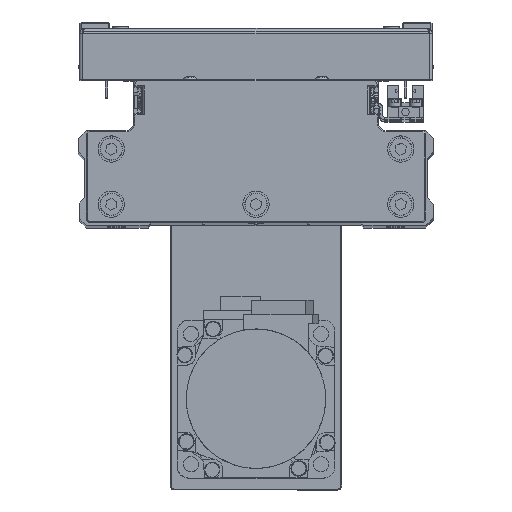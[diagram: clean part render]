
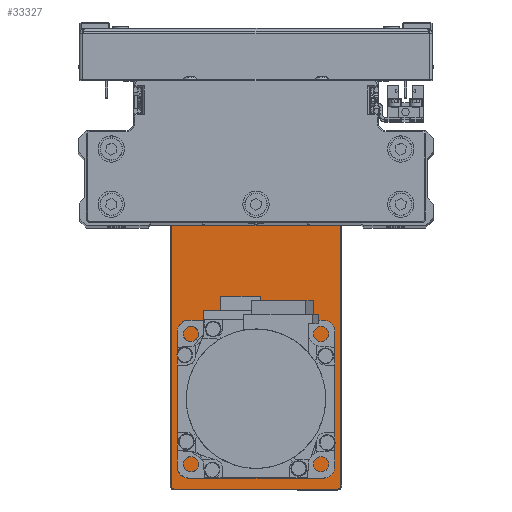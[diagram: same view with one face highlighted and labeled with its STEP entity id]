
A CAD part, top view. The second image highlights one B-rep face of the part: STEP entity #33327.
In plain terms, the highlighted planar face has unit normal (0, 0, 1) as drawn and (0, 1, 0) by its records, which use the part's own axes.
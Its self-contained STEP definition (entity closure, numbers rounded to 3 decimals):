
#68 = LINE ( 'NONE', #13600, #17978 ) ;
#640 = EDGE_LOOP ( 'NONE', ( #26068, #18348 ) ) ;
#845 = EDGE_CURVE ( 'NONE', #32373, #39352, #42726, .T. ) ;
#1096 = CARTESIAN_POINT ( 'NONE',  ( -84.7, 6., 31. ) ) ;
#1288 = DIRECTION ( 'NONE',  ( 0., 0., -1. ) ) ;
#1783 = EDGE_CURVE ( 'NONE', #27980, #29511, #11864, .T. ) ;
#2672 = DIRECTION ( 'NONE',  ( 0., 1., 0. ) ) ;
#2726 = ORIENTED_EDGE ( 'NONE', *, *, #41352, .T. ) ;
#2916 = AXIS2_PLACEMENT_3D ( 'NONE', #7598, #21146, #34689 ) ;
#3352 = AXIS2_PLACEMENT_3D ( 'NONE', #33114, #2672, #16196 ) ;
#3523 = DIRECTION ( 'NONE',  ( 0., 0., 1. ) ) ;
#3753 = DIRECTION ( 'NONE',  ( -1., 0., 0. ) ) ;
#3975 = CIRCLE ( 'NONE', #9646, 15. ) ;
#4384 = DIRECTION ( 'NONE',  ( 0., 1., 0. ) ) ;
#4413 = DIRECTION ( 'NONE',  ( 0., 1., 0. ) ) ;
#4461 = CARTESIAN_POINT ( 'NONE',  ( 61.051, 6., 23.492 ) ) ;
#4641 = ORIENTED_EDGE ( 'NONE', *, *, #27818, .T. ) ;
#5366 = CIRCLE ( 'NONE', #30205, 1.2 ) ;
#5469 = DIRECTION ( 'NONE',  ( 0., 0., -1. ) ) ;
#5862 = DIRECTION ( 'NONE',  ( 0., 0., -1. ) ) ;
#6671 = ORIENTED_EDGE ( 'NONE', *, *, #34083, .F. ) ;
#7500 = AXIS2_PLACEMENT_3D ( 'NONE', #18164, #31730, #1288 ) ;
#7598 = CARTESIAN_POINT ( 'NONE',  ( 52.5, 6., 0. ) ) ;
#7675 = CARTESIAN_POINT ( 'NONE',  ( 84.7, 6., 0. ) ) ;
#8786 = PLANE ( 'NONE',  #16783 ) ;
#9503 = EDGE_LOOP ( 'NONE', ( #23971, #11650 ) ) ;
#9646 = AXIS2_PLACEMENT_3D ( 'NONE', #11849, #25396, #38945 ) ;
#10083 = EDGE_LOOP ( 'NONE', ( #27280, #30245, #11798, #2726, #37909, #35811, #36991, #34831 ) ) ;
#10346 = DIRECTION ( 'NONE',  ( 0., 1., 0. ) ) ;
#11159 = CARTESIAN_POINT ( 'NONE',  ( -83.5, 6., 32.2 ) ) ;
#11495 = EDGE_CURVE ( 'NONE', #18677, #28944, #33385, .T. ) ;
#11650 = ORIENTED_EDGE ( 'NONE', *, *, #32383, .F. ) ;
#11798 = ORIENTED_EDGE ( 'NONE', *, *, #25408, .T. ) ;
#11849 = CARTESIAN_POINT ( 'NONE',  ( -50.5, 6., 0. ) ) ;
#11864 = CIRCLE ( 'NONE', #36684, 1.525 ) ;
#11874 = AXIS2_PLACEMENT_3D ( 'NONE', #34859, #4413, #17965 ) ;
#11928 = DIRECTION ( 'NONE',  ( 0., 1., 0. ) ) ;
#12108 = FACE_BOUND ( 'NONE', #18203, .T. ) ;
#12272 = CARTESIAN_POINT ( 'NONE',  ( 0., 6., 32.2 ) ) ;
#12533 = DIRECTION ( 'NONE',  ( 0., 1., 0. ) ) ;
#13213 = CARTESIAN_POINT ( 'NONE',  ( 52.5, 6., 10.3 ) ) ;
#13600 = CARTESIAN_POINT ( 'NONE',  ( -84.7, 6., 0. ) ) ;
#13686 = AXIS2_PLACEMENT_3D ( 'NONE', #34827, #4384, #17930 ) ;
#14232 = AXIS2_PLACEMENT_3D ( 'NONE', #20426, #33972, #3523 ) ;
#14711 = VERTEX_POINT ( 'NONE', #30810 ) ;
#15333 = VERTEX_POINT ( 'NONE', #25995 ) ;
#15337 = VECTOR ( 'NONE', #25838, 1000. ) ;
#16056 = VERTEX_POINT ( 'NONE', #29005 ) ;
#16196 = DIRECTION ( 'NONE',  ( 0., 0., 1. ) ) ;
#16200 = CARTESIAN_POINT ( 'NONE',  ( 84.7, 6., 31. ) ) ;
#16280 = VERTEX_POINT ( 'NONE', #20762 ) ;
#16783 = AXIS2_PLACEMENT_3D ( 'NONE', #22353, #35904, #5469 ) ;
#17385 = AXIS2_PLACEMENT_3D ( 'NONE', #22747, #36294, #5862 ) ;
#17930 = DIRECTION ( 'NONE',  ( 0., 0., -1. ) ) ;
#17965 = DIRECTION ( 'NONE',  ( 0., 0., 1. ) ) ;
#17978 = VECTOR ( 'NONE', #27168, 1000. ) ;
#18008 = DIRECTION ( 'NONE',  ( 0., 1., 0. ) ) ;
#18164 = CARTESIAN_POINT ( 'NONE',  ( 52.5, 6., 0. ) ) ;
#18203 = EDGE_LOOP ( 'NONE', ( #21623, #4641 ) ) ;
#18348 = ORIENTED_EDGE ( 'NONE', *, *, #33851, .F. ) ;
#18677 = VERTEX_POINT ( 'NONE', #28553 ) ;
#18776 = EDGE_CURVE ( 'NONE', #22104, #42542, #36544, .T. ) ;
#18851 = AXIS2_PLACEMENT_3D ( 'NONE', #4461, #18008, #31591 ) ;
#18894 = CARTESIAN_POINT ( 'NONE',  ( 61.051, 6., 25.017 ) ) ;
#19892 = ORIENTED_EDGE ( 'NONE', *, *, #11495, .F. ) ;
#20426 = CARTESIAN_POINT ( 'NONE',  ( 75.992, 6., -8.551 ) ) ;
#20560 = EDGE_CURVE ( 'NONE', #29060, #15333, #26651, .T. ) ;
#20640 = LINE ( 'NONE', #34194, #43391 ) ;
#20651 = EDGE_CURVE ( 'NONE', #39352, #40461, #5366, .T. ) ;
#20661 = AXIS2_PLACEMENT_3D ( 'NONE', #42992, #12533, #26094 ) ;
#20762 = CARTESIAN_POINT ( 'NONE',  ( -83.5, 6., -32.2 ) ) ;
#21037 = CARTESIAN_POINT ( 'NONE',  ( 84.7, 6., -31. ) ) ;
#21146 = DIRECTION ( 'NONE',  ( 0., -1., 0. ) ) ;
#21222 = DIRECTION ( 'NONE',  ( 0., 0., -1. ) ) ;
#21623 = ORIENTED_EDGE ( 'NONE', *, *, #20560, .T. ) ;
#22077 = CIRCLE ( 'NONE', #2916, 10.3 ) ;
#22104 = VERTEX_POINT ( 'NONE', #21037 ) ;
#22353 = CARTESIAN_POINT ( 'NONE',  ( 0., 6., 0. ) ) ;
#22502 = CIRCLE ( 'NONE', #3352, 15. ) ;
#22616 = EDGE_CURVE ( 'NONE', #26383, #14711, #3975, .T. ) ;
#22747 = CARTESIAN_POINT ( 'NONE',  ( 83.5, 6., -31. ) ) ;
#23839 = CARTESIAN_POINT ( 'NONE',  ( 61.051, 6., 21.967 ) ) ;
#23913 = DIRECTION ( 'NONE',  ( 0., 0., 1. ) ) ;
#23971 = ORIENTED_EDGE ( 'NONE', *, *, #1783, .F. ) ;
#25396 = DIRECTION ( 'NONE',  ( 0., 1., 0. ) ) ;
#25408 = EDGE_CURVE ( 'NONE', #16280, #16056, #32840, .T. ) ;
#25479 = DIRECTION ( 'NONE',  ( 0., 0., -1. ) ) ;
#25669 = FACE_OUTER_BOUND ( 'NONE', #10083, .T. ) ;
#25838 = DIRECTION ( 'NONE',  ( 1., 0., 0. ) ) ;
#25995 = CARTESIAN_POINT ( 'NONE',  ( 52.5, 6., -10.3 ) ) ;
#26068 = ORIENTED_EDGE ( 'NONE', *, *, #22616, .F. ) ;
#26094 = DIRECTION ( 'NONE',  ( 0., 0., -1. ) ) ;
#26383 = VERTEX_POINT ( 'NONE', #29961 ) ;
#26651 = CIRCLE ( 'NONE', #7500, 10.3 ) ;
#27168 = DIRECTION ( 'NONE',  ( 0., 0., 1. ) ) ;
#27280 = ORIENTED_EDGE ( 'NONE', *, *, #18776, .T. ) ;
#27818 = EDGE_CURVE ( 'NONE', #15333, #29060, #22077, .T. ) ;
#27980 = VERTEX_POINT ( 'NONE', #18894 ) ;
#28220 = EDGE_CURVE ( 'NONE', #42542, #16280, #20640, .T. ) ;
#28345 = VERTEX_POINT ( 'NONE', #1096 ) ;
#28553 = CARTESIAN_POINT ( 'NONE',  ( 75.992, 6., -10.076 ) ) ;
#28944 = VERTEX_POINT ( 'NONE', #42767 ) ;
#29005 = CARTESIAN_POINT ( 'NONE',  ( -84.7, 6., -31. ) ) ;
#29007 = FACE_BOUND ( 'NONE', #9503, .T. ) ;
#29060 = VERTEX_POINT ( 'NONE', #13213 ) ;
#29511 = VERTEX_POINT ( 'NONE', #23839 ) ;
#29961 = CARTESIAN_POINT ( 'NONE',  ( -50.5, 6., 15. ) ) ;
#30205 = AXIS2_PLACEMENT_3D ( 'NONE', #42385, #11928, #25479 ) ;
#30245 = ORIENTED_EDGE ( 'NONE', *, *, #28220, .T. ) ;
#30810 = CARTESIAN_POINT ( 'NONE',  ( -50.5, 6., -15. ) ) ;
#31043 = CIRCLE ( 'NONE', #11874, 1.525 ) ;
#31591 = DIRECTION ( 'NONE',  ( 0., 0., 1. ) ) ;
#31730 = DIRECTION ( 'NONE',  ( 0., -1., 0. ) ) ;
#32373 = VERTEX_POINT ( 'NONE', #11159 ) ;
#32383 = EDGE_CURVE ( 'NONE', #29511, #27980, #38016, .T. ) ;
#32840 = CIRCLE ( 'NONE', #13686, 1.2 ) ;
#33114 = CARTESIAN_POINT ( 'NONE',  ( -50.5, 6., 0. ) ) ;
#33313 = EDGE_LOOP ( 'NONE', ( #6671, #19892 ) ) ;
#33327 = ADVANCED_FACE ( 'NONE', ( #29007, #42562, #12108, #25669, #39224 ), #8786, .F. ) ;
#33385 = CIRCLE ( 'NONE', #14232, 1.525 ) ;
#33851 = EDGE_CURVE ( 'NONE', #14711, #26383, #22502, .T. ) ;
#33972 = DIRECTION ( 'NONE',  ( 0., 1., 0. ) ) ;
#34083 = EDGE_CURVE ( 'NONE', #28944, #18677, #31043, .T. ) ;
#34194 = CARTESIAN_POINT ( 'NONE',  ( 0., 6., -32.2 ) ) ;
#34607 = CARTESIAN_POINT ( 'NONE',  ( 83.5, 6., 32.2 ) ) ;
#34689 = DIRECTION ( 'NONE',  ( 0., 0., -1. ) ) ;
#34827 = CARTESIAN_POINT ( 'NONE',  ( -83.5, 6., -31. ) ) ;
#34831 = ORIENTED_EDGE ( 'NONE', *, *, #42814, .T. ) ;
#34859 = CARTESIAN_POINT ( 'NONE',  ( 75.992, 6., -8.551 ) ) ;
#35811 = ORIENTED_EDGE ( 'NONE', *, *, #845, .T. ) ;
#35904 = DIRECTION ( 'NONE',  ( 0., -1., 0. ) ) ;
#36294 = DIRECTION ( 'NONE',  ( 0., 1., 0. ) ) ;
#36321 = VECTOR ( 'NONE', #21222, 1000. ) ;
#36330 = CARTESIAN_POINT ( 'NONE',  ( 83.5, 6., -32.2 ) ) ;
#36544 = CIRCLE ( 'NONE', #17385, 1.2 ) ;
#36684 = AXIS2_PLACEMENT_3D ( 'NONE', #40782, #10346, #23913 ) ;
#36991 = ORIENTED_EDGE ( 'NONE', *, *, #20651, .T. ) ;
#37909 = ORIENTED_EDGE ( 'NONE', *, *, #38643, .T. ) ;
#38016 = CIRCLE ( 'NONE', #18851, 1.525 ) ;
#38114 = LINE ( 'NONE', #7675, #36321 ) ;
#38643 = EDGE_CURVE ( 'NONE', #28345, #32373, #39812, .T. ) ;
#38945 = DIRECTION ( 'NONE',  ( 0., 0., 1. ) ) ;
#39224 = FACE_BOUND ( 'NONE', #640, .T. ) ;
#39352 = VERTEX_POINT ( 'NONE', #34607 ) ;
#39812 = CIRCLE ( 'NONE', #20661, 1.2 ) ;
#40461 = VERTEX_POINT ( 'NONE', #16200 ) ;
#40782 = CARTESIAN_POINT ( 'NONE',  ( 61.051, 6., 23.492 ) ) ;
#41352 = EDGE_CURVE ( 'NONE', #16056, #28345, #68, .T. ) ;
#42385 = CARTESIAN_POINT ( 'NONE',  ( 83.5, 6., 31. ) ) ;
#42542 = VERTEX_POINT ( 'NONE', #36330 ) ;
#42562 = FACE_BOUND ( 'NONE', #33313, .T. ) ;
#42726 = LINE ( 'NONE', #12272, #15337 ) ;
#42767 = CARTESIAN_POINT ( 'NONE',  ( 75.992, 6., -7.026 ) ) ;
#42814 = EDGE_CURVE ( 'NONE', #40461, #22104, #38114, .T. ) ;
#42992 = CARTESIAN_POINT ( 'NONE',  ( -83.5, 6., 31. ) ) ;
#43391 = VECTOR ( 'NONE', #3753, 1000. ) ;
